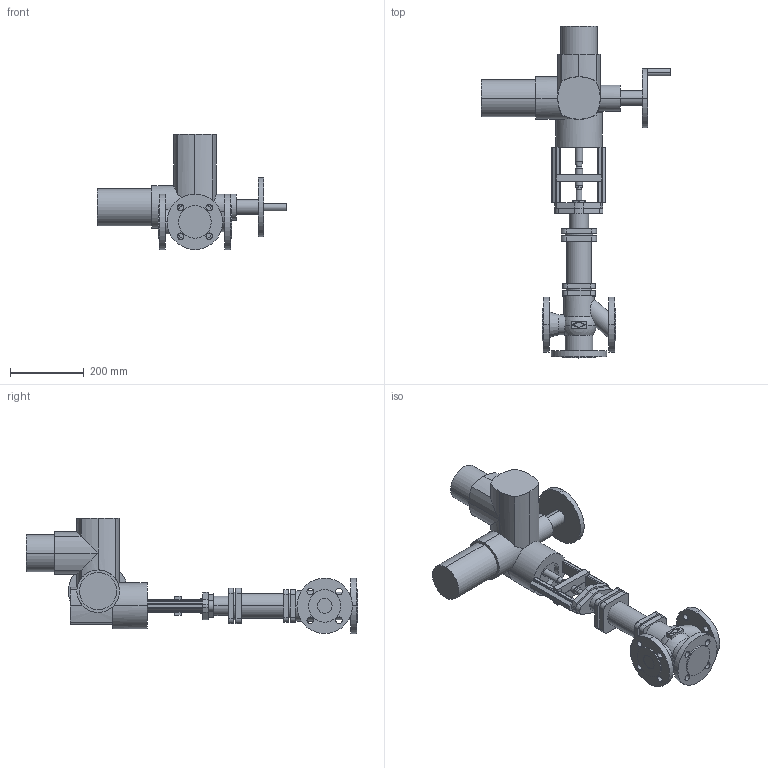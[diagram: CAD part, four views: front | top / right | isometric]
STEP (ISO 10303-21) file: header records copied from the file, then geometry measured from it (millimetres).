
FILE_DESCRIPTION(('OneSpaceDesigner STEP Export'),'2;1');
FILE_NAME('c000003202.stp','2007-01-25T11:43:49',(''),(''),'OneSpace Designer STEP processor for AP214 (Solid Model)','OneSpace Designer 14.00B 27-May-2006 (C) CoCreate Software GmbH','');
FILE_SCHEMA(('AUTOMOTIVE_DESIGN { 1 0 10303 214 1 1 1 1 }'));
Length unit declared in the file: millimetre
Products named in the file (2): 1; 2
Bounding box: 514 x 898.5 x 312 mm (x, y, z)
Volume: 11531948.1 mm3; surface area: 728580.9 mm2
Topology: 2 solids, 2 shells, 334 faces, 854 edges, 546 vertices
Faces by surface type: cylinder 162, plane 162, cone 6, sphere 4
Entity records: 9830 total; most frequent: CARTESIAN_POINT 2131, ORIENTED_EDGE 1708, DIRECTION 1470, EDGE_CURVE 854, VERTEX_POINT 546, AXIS2_PLACEMENT_3D 502, VECTOR 466, LINE 466
